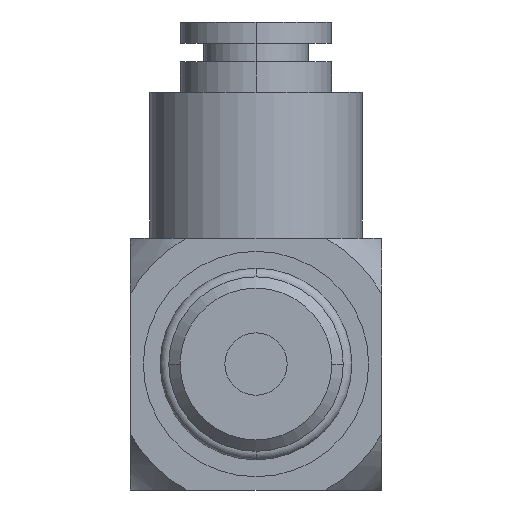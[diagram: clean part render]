
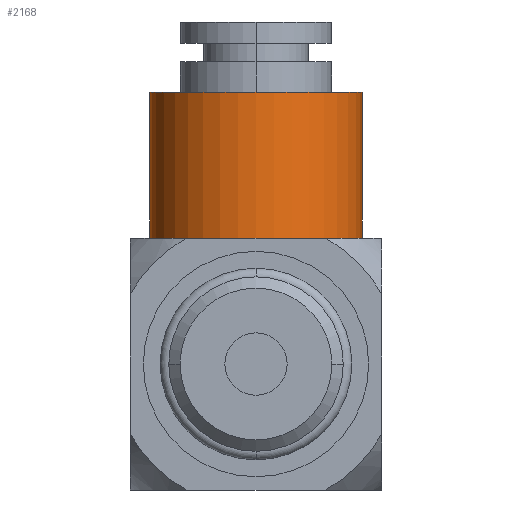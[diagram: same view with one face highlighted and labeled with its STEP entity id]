
A CAD part, front view. The second image highlights one B-rep face of the part: STEP entity #2168.
In plain terms, the highlighted cylindrical face has radius 8 mm (diameter 16 mm), a partial arc.
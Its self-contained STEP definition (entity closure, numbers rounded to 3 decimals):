
#681=CARTESIAN_POINT('',(0.,-0.75,9.5));
#682=DIRECTION('',(0.,0.,1.));
#683=DIRECTION('',(-1.,0.,0.));
#684=AXIS2_PLACEMENT_3D('',#681,#682,#683);
#686=DIRECTION('',(0.,0.,1.));
#687=VECTOR('',#686,11.);
#688=CARTESIAN_POINT('',(8.,-0.75,9.5));
#689=LINE('',#688,#687);
#690=DIRECTION('',(0.,0.,1.));
#691=VECTOR('',#690,11.);
#692=CARTESIAN_POINT('',(-8.,-0.75,9.5));
#693=LINE('',#692,#691);
#699=CARTESIAN_POINT('',(0.,-0.75,20.5));
#700=DIRECTION('',(0.,0.,1.));
#701=DIRECTION('',(-1.,0.,0.));
#702=AXIS2_PLACEMENT_3D('',#699,#700,#701);
#1188=CARTESIAN_POINT('',(8.,-0.75,20.5));
#1189=CARTESIAN_POINT('',(-8.,-0.75,20.5));
#1190=VERTEX_POINT('',#1188);
#1191=VERTEX_POINT('',#1189);
#1192=CARTESIAN_POINT('',(8.,-0.75,9.5));
#1193=CARTESIAN_POINT('',(-8.,-0.75,9.5));
#1194=VERTEX_POINT('',#1192);
#1195=VERTEX_POINT('',#1193);
#2156=CARTESIAN_POINT('',(0.,-0.75,9.5));
#2157=DIRECTION('',(0.,0.,1.));
#2158=DIRECTION('',(1.,0.,0.));
#2159=AXIS2_PLACEMENT_3D('',#2156,#2157,#2158);
#2160=CYLINDRICAL_SURFACE('',#2159,8.);
#2161=ORIENTED_EDGE('',*,*,#2113,.F.);
#2162=ORIENTED_EDGE('',*,*,#2151,.T.);
#2164=ORIENTED_EDGE('',*,*,#2163,.T.);
#2165=ORIENTED_EDGE('',*,*,#2147,.F.);
#2166=EDGE_LOOP('',(#2161,#2162,#2164,#2165));
#2167=FACE_OUTER_BOUND('',#2166,.F.);
#2168=ADVANCED_FACE('',(#2167),#2160,.T.);
#685=CIRCLE('',#684,8.);
#703=CIRCLE('',#702,8.);
#2113=EDGE_CURVE('',#1195,#1194,#685,.T.);
#2147=EDGE_CURVE('',#1194,#1190,#689,.T.);
#2151=EDGE_CURVE('',#1195,#1191,#693,.T.);
#2163=EDGE_CURVE('',#1191,#1190,#703,.T.);
